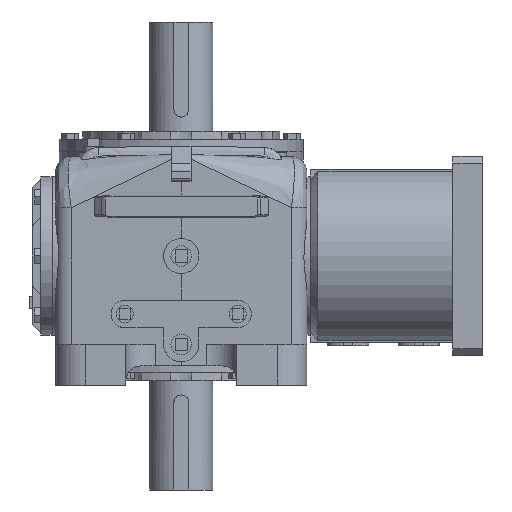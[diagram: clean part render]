
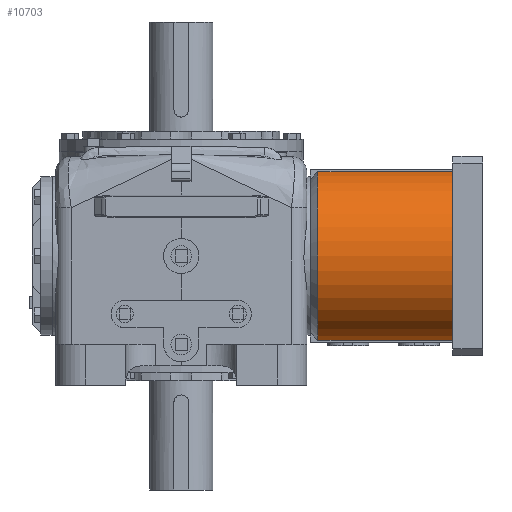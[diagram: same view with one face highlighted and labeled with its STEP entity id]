
A CAD part, front view. The second image highlights one B-rep face of the part: STEP entity #10703.
In plain terms, the highlighted cylindrical face has radius 112.713 mm (diameter 225.425 mm), a partial arc.
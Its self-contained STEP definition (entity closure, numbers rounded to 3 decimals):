
#403=CYLINDRICAL_SURFACE('',#12927,112.713);
#1255=LINE('',#26149,#2152);
#1259=LINE('',#26156,#2156);
#2152=VECTOR('',#15524,1000.);
#2156=VECTOR('',#15534,1000.);
#5191=ORIENTED_EDGE('',*,*,#6727,.F.);
#5192=ORIENTED_EDGE('',*,*,#6767,.F.);
#5193=ORIENTED_EDGE('',*,*,#6743,.T.);
#5194=ORIENTED_EDGE('',*,*,#6771,.T.);
#6727=EDGE_CURVE('',#7771,#7772,#8114,.T.);
#6743=EDGE_CURVE('',#7787,#7786,#8121,.T.);
#6767=EDGE_CURVE('',#7787,#7771,#1255,.T.);
#6771=EDGE_CURVE('',#7786,#7772,#1259,.T.);
#7771=VERTEX_POINT('',#26053);
#7772=VERTEX_POINT('',#26055);
#7786=VERTEX_POINT('',#26092);
#7787=VERTEX_POINT('',#26094);
#8114=CIRCLE('',#12893,112.713);
#8121=CIRCLE('',#12905,112.713);
#8874=EDGE_LOOP('',(#5191,#5192,#5193,#5194));
#9669=FACE_BOUND('',#8874,.T.);
#10703=ADVANCED_FACE('',(#9669),#403,.T.);
#12893=AXIS2_PLACEMENT_3D('',#26054,#15441,#15442);
#12905=AXIS2_PLACEMENT_3D('',#26093,#15473,#15474);
#12927=AXIS2_PLACEMENT_3D('',#26158,#15537,#15538);
#15441=DIRECTION('',(1.,0.,0.));
#15442=DIRECTION('',(0.,0.,-1.));
#15473=DIRECTION('',(1.,0.,0.));
#15474=DIRECTION('',(0.,0.,-1.));
#15524=DIRECTION('',(1.,0.,0.));
#15534=DIRECTION('',(1.,0.,0.));
#15537=DIRECTION('',(1.,0.,0.));
#15538=DIRECTION('',(0.,0.,-1.));
#26053=CARTESIAN_POINT('',(185.014,-24.719,109.968));
#26054=CARTESIAN_POINT('',(185.014,0.,0.));
#26055=CARTESIAN_POINT('',(185.014,-24.713,-109.97));
#26092=CARTESIAN_POINT('',(9.804,-24.713,-109.97));
#26093=CARTESIAN_POINT('',(9.804,0.,0.));
#26094=CARTESIAN_POINT('',(9.804,-24.719,109.968));
#26149=CARTESIAN_POINT('',(122.103,-24.719,109.968));
#26156=CARTESIAN_POINT('',(122.103,-24.713,-109.97));
#26158=CARTESIAN_POINT('',(122.103,0.,0.));
